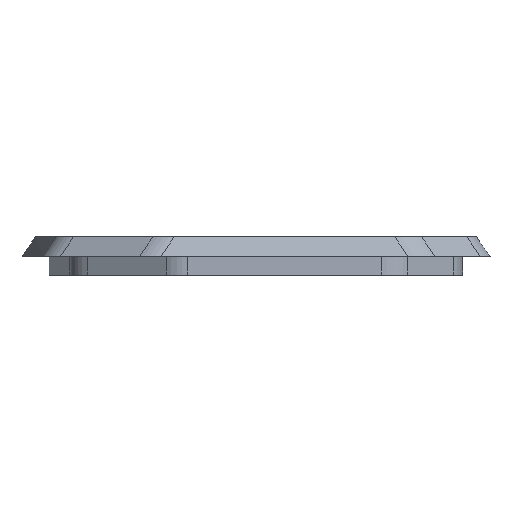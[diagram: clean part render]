
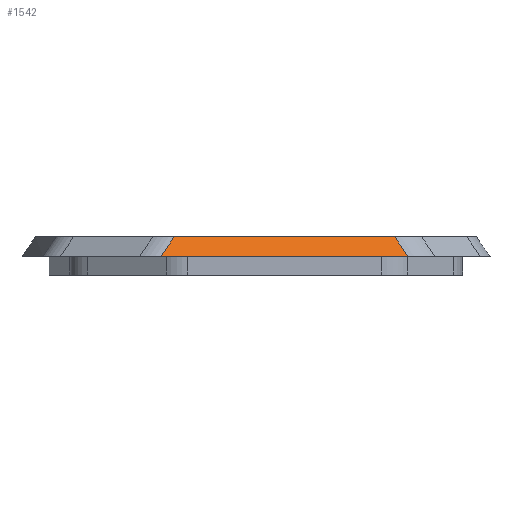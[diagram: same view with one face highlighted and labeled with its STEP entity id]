
A CAD part, left-side view. The second image highlights one B-rep face of the part: STEP entity #1542.
In plain terms, the highlighted free-form (B-spline) face has degree [1, 1] with [2, 2] control points.
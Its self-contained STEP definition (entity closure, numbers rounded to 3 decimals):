
#62 = PLANE('',#63);
#63 = AXIS2_PLACEMENT_3D('',#64,#65,#66);
#64 = CARTESIAN_POINT('',(-31.151,-26.558,2.5));
#65 = DIRECTION('',(0.,0.,1.));
#66 = DIRECTION('',(1.,0.,0.));
#128 = PLANE('',#129);
#129 = AXIS2_PLACEMENT_3D('',#130,#131,#132);
#130 = CARTESIAN_POINT('',(-29.367,-24.743,5.1));
#131 = DIRECTION('',(0.,0.,-1.));
#132 = DIRECTION('',(-1.,0.,0.));
#153 = B_SPLINE_SURFACE_WITH_KNOTS('',6,1,(
    (#154,#155)
    ,(#156,#157)
    ,(#158,#159)
    ,(#160,#161)
    ,(#162,#163)
    ,(#164,#165)
    ,(#166,#167
    )),.UNSPECIFIED.,.F.,.F.,.F.,(7,7),(2,2),(3.169,
    3.98),(0.,1.),.PIECEWISE_BEZIER_KNOTS.);
#154 = CARTESIAN_POINT('',(-42.859,-20.655,2.5));
#155 = CARTESIAN_POINT('',(-41.065,-18.864,5.1));
#156 = CARTESIAN_POINT('',(-42.84,-21.331,2.5));
#157 = CARTESIAN_POINT('',(-41.044,-19.537,5.1));
#158 = CARTESIAN_POINT('',(-42.712,-22.003,2.5));
#159 = CARTESIAN_POINT('',(-40.915,-20.207,5.1));
#160 = CARTESIAN_POINT('',(-42.475,-22.65,2.5));
#161 = CARTESIAN_POINT('',(-40.678,-20.851,5.1));
#162 = CARTESIAN_POINT('',(-42.136,-23.25,2.5));
#163 = CARTESIAN_POINT('',(-40.34,-21.448,5.1));
#164 = CARTESIAN_POINT('',(-41.707,-23.783,2.5));
#165 = CARTESIAN_POINT('',(-39.912,-21.979,5.1));
#166 = CARTESIAN_POINT('',(-41.205,-24.235,2.5));
#167 = CARTESIAN_POINT('',(-39.412,-22.429,5.1));
#568 = VERTEX_POINT('',#569);
#569 = CARTESIAN_POINT('',(-43.758,12.258,2.5));
#584 = B_SPLINE_SURFACE_WITH_KNOTS('',6,1,(
    (#585,#586)
    ,(#587,#588)
    ,(#589,#590)
    ,(#591,#592)
    ,(#593,#594)
    ,(#595,#596)
    ,(#597,#598
    )),.UNSPECIFIED.,.F.,.F.,.F.,(7,7),(2,2),(-0.571,
    0.03),(0.,1.),.PIECEWISE_BEZIER_KNOTS.);
#585 = CARTESIAN_POINT('',(-42.966,15.098,2.5));
#586 = CARTESIAN_POINT('',(-41.161,13.305,5.1));
#587 = CARTESIAN_POINT('',(-43.235,14.678,2.5));
#588 = CARTESIAN_POINT('',(-41.432,12.883,5.1));
#589 = CARTESIAN_POINT('',(-43.455,14.226,2.5));
#590 = CARTESIAN_POINT('',(-41.653,12.429,5.1));
#591 = CARTESIAN_POINT('',(-43.619,13.75,2.5));
#592 = CARTESIAN_POINT('',(-41.817,11.949,5.1));
#593 = CARTESIAN_POINT('',(-43.725,13.257,2.5));
#594 = CARTESIAN_POINT('',(-41.923,11.454,5.1));
#595 = CARTESIAN_POINT('',(-43.771,12.756,2.5));
#596 = CARTESIAN_POINT('',(-41.968,10.951,5.1));
#597 = CARTESIAN_POINT('',(-43.758,12.258,2.5));
#598 = CARTESIAN_POINT('',(-41.953,10.45,5.1));
#605 = EDGE_CURVE('',#568,#606,#608,.T.);
#606 = VERTEX_POINT('',#607);
#607 = CARTESIAN_POINT('',(-42.859,-20.655,2.5));
#608 = SURFACE_CURVE('',#609,(#613,#620),.PCURVE_S1.);
#609 = LINE('',#610,#611);
#610 = CARTESIAN_POINT('',(-43.8,13.8,2.5));
#611 = VECTOR('',#612,1.);
#612 = DIRECTION('',(0.027,-1.,0.));
#613 = PCURVE('',#62,#614);
#614 = DEFINITIONAL_REPRESENTATION('',(#615),#619);
#615 = LINE('',#616,#617);
#616 = CARTESIAN_POINT('',(-12.649,40.358));
#617 = VECTOR('',#618,1.);
#618 = DIRECTION('',(0.027,-1.));
#619 = ( GEOMETRIC_REPRESENTATION_CONTEXT(2) 
PARAMETRIC_REPRESENTATION_CONTEXT() REPRESENTATION_CONTEXT('2D SPACE',''
  ) );
#620 = PCURVE('',#621,#626);
#621 = B_SPLINE_SURFACE_WITH_KNOTS('',1,1,(
    (#622,#623)
    ,(#624,#625
    )),.UNSPECIFIED.,.F.,.F.,.F.,(2,2),(2,2),(1.543,
    34.468),(0.,1.),.PIECEWISE_BEZIER_KNOTS.);
#622 = CARTESIAN_POINT('',(-43.758,12.258,2.5));
#623 = CARTESIAN_POINT('',(-41.953,10.45,5.1));
#624 = CARTESIAN_POINT('',(-42.859,-20.655,2.5));
#625 = CARTESIAN_POINT('',(-41.065,-18.864,5.1));
#626 = DEFINITIONAL_REPRESENTATION('',(#627),#631);
#627 = LINE('',#628,#629);
#628 = CARTESIAN_POINT('',(0.,0.));
#629 = VECTOR('',#630,1.);
#630 = DIRECTION('',(1.,0.));
#631 = ( GEOMETRIC_REPRESENTATION_CONTEXT(2) 
PARAMETRIC_REPRESENTATION_CONTEXT() REPRESENTATION_CONTEXT('2D SPACE',''
  ) );
#1451 = VERTEX_POINT('',#1452);
#1452 = CARTESIAN_POINT('',(-41.953,10.45,5.1));
#1474 = EDGE_CURVE('',#1451,#1475,#1477,.T.);
#1475 = VERTEX_POINT('',#1476);
#1476 = CARTESIAN_POINT('',(-41.065,-18.864,5.1));
#1477 = SURFACE_CURVE('',#1478,(#1482,#1489),.PCURVE_S1.);
#1478 = LINE('',#1479,#1480);
#1479 = CARTESIAN_POINT('',(-42.,12.,5.1));
#1480 = VECTOR('',#1481,1.);
#1481 = DIRECTION('',(0.03,-1.,-0.));
#1482 = PCURVE('',#128,#1483);
#1483 = DEFINITIONAL_REPRESENTATION('',(#1484),#1488);
#1484 = LINE('',#1485,#1486);
#1485 = CARTESIAN_POINT('',(12.633,36.743));
#1486 = VECTOR('',#1487,1.);
#1487 = DIRECTION('',(-0.03,-1.));
#1488 = ( GEOMETRIC_REPRESENTATION_CONTEXT(2) 
PARAMETRIC_REPRESENTATION_CONTEXT() REPRESENTATION_CONTEXT('2D SPACE',''
  ) );
#1489 = PCURVE('',#621,#1490);
#1490 = DEFINITIONAL_REPRESENTATION('',(#1491),#1494);
#1491 = B_SPLINE_CURVE_WITH_KNOTS('',1,(#1492,#1493),.UNSPECIFIED.,.F.,
  .F.,(2,2),(1.551,30.878),.PIECEWISE_BEZIER_KNOTS.);
#1492 = CARTESIAN_POINT('',(1.543,1.));
#1493 = CARTESIAN_POINT('',(34.468,1.));
#1494 = ( GEOMETRIC_REPRESENTATION_CONTEXT(2) 
PARAMETRIC_REPRESENTATION_CONTEXT() REPRESENTATION_CONTEXT('2D SPACE',''
  ) );
#1523 = EDGE_CURVE('',#606,#1475,#1524,.T.);
#1524 = SURFACE_CURVE('',#1525,(#1528,#1535),.PCURVE_S1.);
#1525 = B_SPLINE_CURVE_WITH_KNOTS('',1,(#1526,#1527),.UNSPECIFIED.,.F.,
  .F.,(2,2),(0.,1.),.PIECEWISE_BEZIER_KNOTS.);
#1526 = CARTESIAN_POINT('',(-42.859,-20.655,2.5));
#1527 = CARTESIAN_POINT('',(-41.065,-18.864,5.1));
#1528 = PCURVE('',#153,#1529);
#1529 = DEFINITIONAL_REPRESENTATION('',(#1530),#1534);
#1530 = LINE('',#1531,#1532);
#1531 = CARTESIAN_POINT('',(3.169,0.));
#1532 = VECTOR('',#1533,1.);
#1533 = DIRECTION('',(0.,1.));
#1534 = ( GEOMETRIC_REPRESENTATION_CONTEXT(2) 
PARAMETRIC_REPRESENTATION_CONTEXT() REPRESENTATION_CONTEXT('2D SPACE',''
  ) );
#1535 = PCURVE('',#621,#1536);
#1536 = DEFINITIONAL_REPRESENTATION('',(#1537),#1541);
#1537 = LINE('',#1538,#1539);
#1538 = CARTESIAN_POINT('',(34.468,0.));
#1539 = VECTOR('',#1540,1.);
#1540 = DIRECTION('',(0.,1.));
#1541 = ( GEOMETRIC_REPRESENTATION_CONTEXT(2) 
PARAMETRIC_REPRESENTATION_CONTEXT() REPRESENTATION_CONTEXT('2D SPACE',''
  ) );
#1542 = ADVANCED_FACE('',(#1543),#621,.T.);
#1543 = FACE_BOUND('',#1544,.T.);
#1544 = EDGE_LOOP('',(#1545,#1546,#1547,#1548));
#1545 = ORIENTED_EDGE('',*,*,#605,.T.);
#1546 = ORIENTED_EDGE('',*,*,#1523,.T.);
#1547 = ORIENTED_EDGE('',*,*,#1474,.F.);
#1548 = ORIENTED_EDGE('',*,*,#1549,.F.);
#1549 = EDGE_CURVE('',#568,#1451,#1550,.T.);
#1550 = SURFACE_CURVE('',#1551,(#1554,#1561),.PCURVE_S1.);
#1551 = B_SPLINE_CURVE_WITH_KNOTS('',1,(#1552,#1553),.UNSPECIFIED.,.F.,
  .F.,(2,2),(0.,1.),.PIECEWISE_BEZIER_KNOTS.);
#1552 = CARTESIAN_POINT('',(-43.758,12.258,2.5));
#1553 = CARTESIAN_POINT('',(-41.953,10.45,5.1));
#1554 = PCURVE('',#621,#1555);
#1555 = DEFINITIONAL_REPRESENTATION('',(#1556),#1560);
#1556 = LINE('',#1557,#1558);
#1557 = CARTESIAN_POINT('',(1.543,0.));
#1558 = VECTOR('',#1559,1.);
#1559 = DIRECTION('',(0.,1.));
#1560 = ( GEOMETRIC_REPRESENTATION_CONTEXT(2) 
PARAMETRIC_REPRESENTATION_CONTEXT() REPRESENTATION_CONTEXT('2D SPACE',''
  ) );
#1561 = PCURVE('',#584,#1562);
#1562 = DEFINITIONAL_REPRESENTATION('',(#1563),#1567);
#1563 = LINE('',#1564,#1565);
#1564 = CARTESIAN_POINT('',(0.03,0.));
#1565 = VECTOR('',#1566,1.);
#1566 = DIRECTION('',(0.,1.));
#1567 = ( GEOMETRIC_REPRESENTATION_CONTEXT(2) 
PARAMETRIC_REPRESENTATION_CONTEXT() REPRESENTATION_CONTEXT('2D SPACE',''
  ) );
